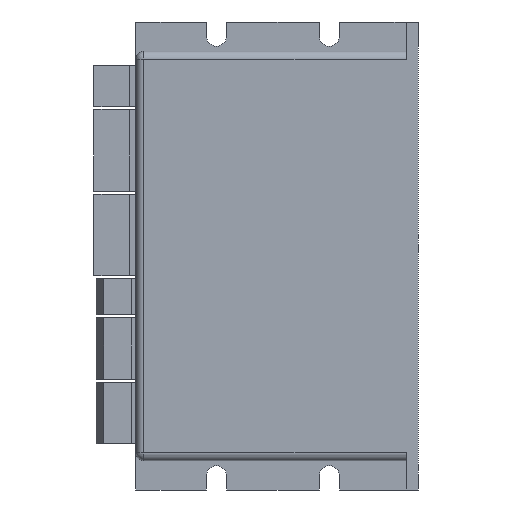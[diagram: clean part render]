
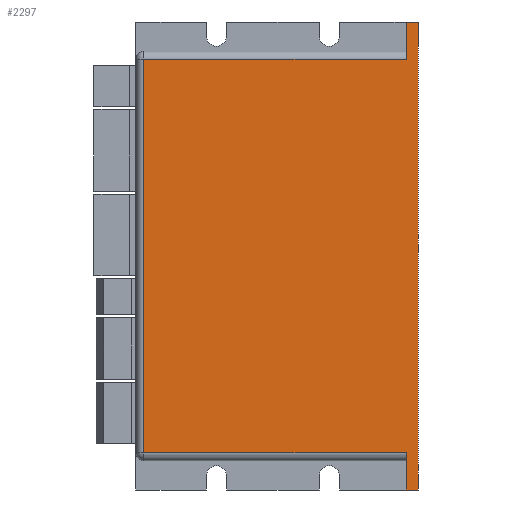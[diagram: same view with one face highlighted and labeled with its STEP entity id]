
A CAD part, left-side view. The second image highlights one B-rep face of the part: STEP entity #2297.
In plain terms, the highlighted planar face has unit normal (-1, 0, 0).
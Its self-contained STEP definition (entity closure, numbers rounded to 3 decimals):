
#26=DIRECTION('',(0.,0.,1.));
#27=VECTOR('',#26,116.);
#28=CARTESIAN_POINT('',(-21.1,0.,-58.));
#29=LINE('',#28,#27);
#55=DIRECTION('',(0.,1.,0.));
#56=VECTOR('',#55,3.);
#57=CARTESIAN_POINT('',(-21.1,0.,58.));
#58=LINE('',#57,#56);
#104=DIRECTION('',(0.,0.,-1.));
#105=VECTOR('',#104,9.25);
#106=CARTESIAN_POINT('',(-21.1,3.,58.));
#107=LINE('',#106,#105);
#133=DIRECTION('',(0.,0.,-1.));
#134=VECTOR('',#133,9.25);
#135=CARTESIAN_POINT('',(-21.1,3.,-48.75));
#136=LINE('',#135,#134);
#154=DIRECTION('',(0.,-1.,0.));
#155=VECTOR('',#154,65.);
#156=CARTESIAN_POINT('',(-21.1,68.,-48.75));
#157=LINE('',#156,#155);
#158=DIRECTION('',(0.,0.,1.));
#159=VECTOR('',#158,97.5);
#160=CARTESIAN_POINT('',(-21.1,68.,-48.75));
#161=LINE('',#160,#159);
#162=DIRECTION('',(0.,1.,0.));
#163=VECTOR('',#162,65.);
#164=CARTESIAN_POINT('',(-21.1,3.,48.75));
#165=LINE('',#164,#163);
#166=DIRECTION('',(0.,1.,0.));
#167=VECTOR('',#166,3.);
#168=CARTESIAN_POINT('',(-21.1,0.,-58.));
#169=LINE('',#168,#167);
#1585=CARTESIAN_POINT('',(-21.1,0.,-58.));
#1586=CARTESIAN_POINT('',(-21.1,0.,58.));
#1587=VERTEX_POINT('',#1585);
#1588=VERTEX_POINT('',#1586);
#1597=CARTESIAN_POINT('',(-21.1,3.,-58.));
#1598=VERTEX_POINT('',#1597);
#1599=CARTESIAN_POINT('',(-21.1,3.,58.));
#1600=VERTEX_POINT('',#1599);
#1841=CARTESIAN_POINT('',(-21.1,68.,-48.75));
#1842=CARTESIAN_POINT('',(-21.1,3.,-48.75));
#1843=VERTEX_POINT('',#1841);
#1844=VERTEX_POINT('',#1842);
#1851=CARTESIAN_POINT('',(-21.1,68.,48.75));
#1852=VERTEX_POINT('',#1851);
#1861=CARTESIAN_POINT('',(-21.1,3.,48.75));
#1862=VERTEX_POINT('',#1861);
#2278=CARTESIAN_POINT('',(-21.1,0.,-58.));
#2279=DIRECTION('',(-1.,0.,0.));
#2280=DIRECTION('',(0.,0.,1.));
#2281=AXIS2_PLACEMENT_3D('',#2278,#2279,#2280);
#2282=PLANE('',#2281);
#2284=ORIENTED_EDGE('',*,*,#2283,.F.);
#2286=ORIENTED_EDGE('',*,*,#2285,.T.);
#2288=ORIENTED_EDGE('',*,*,#2287,.F.);
#2289=ORIENTED_EDGE('',*,*,#2234,.F.);
#2290=ORIENTED_EDGE('',*,*,#2156,.F.);
#2291=ORIENTED_EDGE('',*,*,#2118,.F.);
#2293=ORIENTED_EDGE('',*,*,#2292,.T.);
#2294=ORIENTED_EDGE('',*,*,#2261,.F.);
#2295=EDGE_LOOP('',(#2284,#2286,#2288,#2289,#2290,#2291,#2293,#2294));
#2296=FACE_OUTER_BOUND('',#2295,.F.);
#2297=ADVANCED_FACE('',(#2296),#2282,.T.);
#2118=EDGE_CURVE('',#1587,#1588,#29,.T.);
#2156=EDGE_CURVE('',#1588,#1600,#58,.T.);
#2234=EDGE_CURVE('',#1600,#1862,#107,.T.);
#2261=EDGE_CURVE('',#1844,#1598,#136,.T.);
#2283=EDGE_CURVE('',#1843,#1844,#157,.T.);
#2285=EDGE_CURVE('',#1843,#1852,#161,.T.);
#2287=EDGE_CURVE('',#1862,#1852,#165,.T.);
#2292=EDGE_CURVE('',#1587,#1598,#169,.T.);
